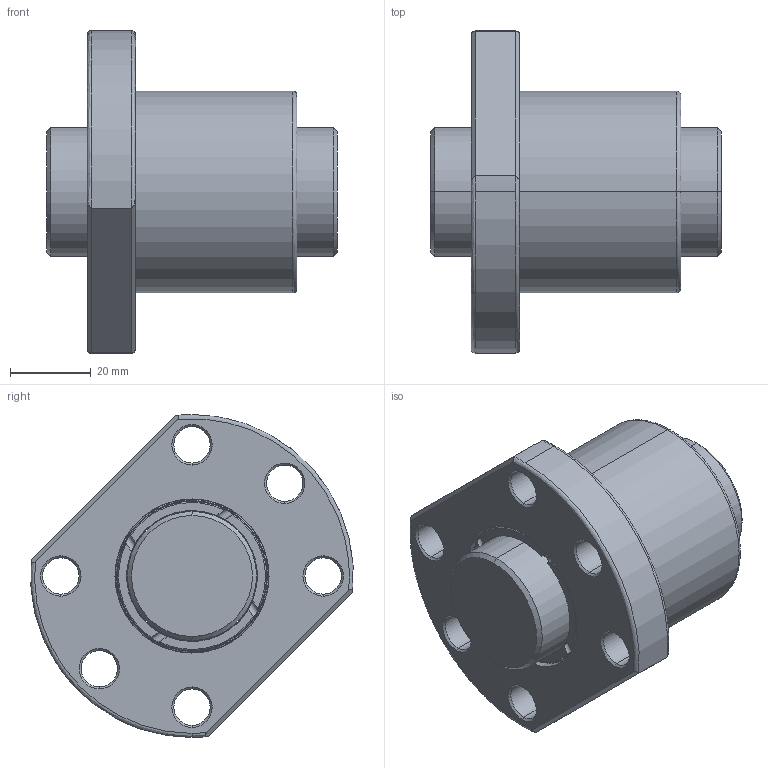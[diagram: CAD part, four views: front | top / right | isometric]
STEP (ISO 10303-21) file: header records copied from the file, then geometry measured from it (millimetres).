
FILE_DESCRIPTION (( 'STEP AP203' ), '1' );
FILE_NAME ('SFUR03205T4D-C.STEP', '2020-06-16T07:32:22', ( '' ), ( '' ), 'SwSTEP 2.0', 'SolidWorks 2013', '' );
FILE_SCHEMA (( 'CONFIG_CONTROL_DESIGN' ));
Length unit declared in the file: millimetre
Products named in the file (1): SFUR03205T4D-C
Bounding box: 72 x 79.83 x 80 mm (x, y, z)
Volume: 137665.1 mm3; surface area: 35142.4 mm2
Topology: 2 solids, 2 shells, 125 faces, 329 edges, 212 vertices
Faces by surface type: cylinder 55, plane 26, torus 20, cone 16, bspline 8
Entity records: 6167 total; most frequent: CARTESIAN_POINT 3087, ORIENTED_EDGE 658, DIRECTION 597, EDGE_CURVE 329, AXIS2_PLACEMENT_3D 256, VERTEX_POINT 212, EDGE_LOOP 147, CIRCLE 138
